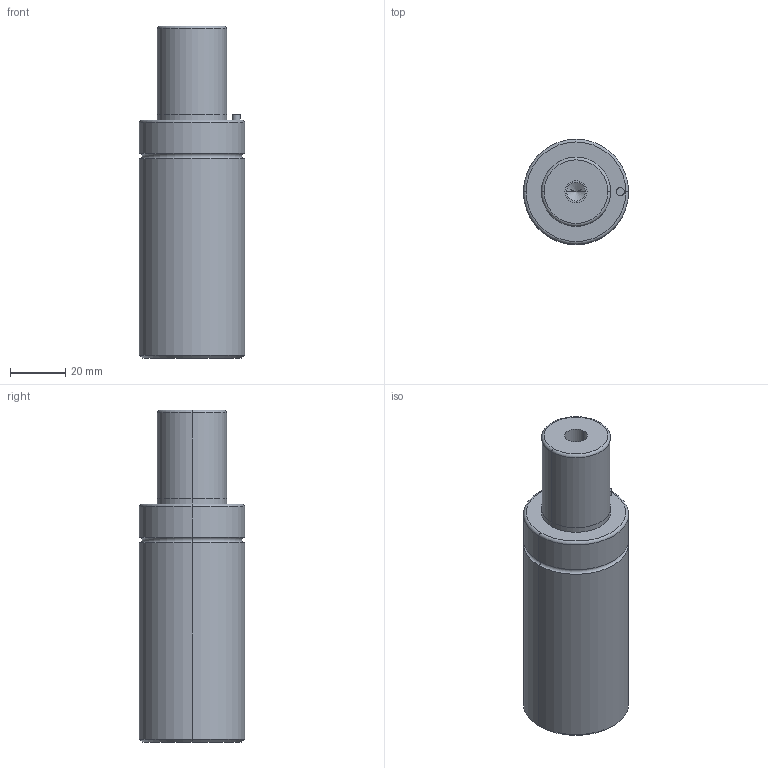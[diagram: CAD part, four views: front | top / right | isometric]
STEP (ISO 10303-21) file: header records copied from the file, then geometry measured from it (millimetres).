
FILE_DESCRIPTION(/* description */ (''),/* implementation_level */ '2;1');
FILE_NAME(/* name */ '3d_gsm38-32_03918_r00.stp',/* time_stamp */ '2011-01-10T14:15:16+09:00',/* author */ ('MISUMI'),/* organization */ (''),/* preprocessor_version */ 'ST-DEVELOPER v11',/* originating_system */ 'UGS - NX 5.0',/* authorisation */ '');
FILE_SCHEMA (('CONFIG_CONTROL_DESIGN'));
Length unit declared in the file: millimetre
Products named in the file (1): 3d_gsm38-32_03918_r00
Bounding box: 38 x 38 x 120 mm (x, y, z)
Volume: 112168.4 mm3; surface area: 16182.6 mm2
Topology: 1 solids, 1 shells, 50 faces, 106 edges, 60 vertices
Faces by surface type: cylinder 26, cone 10, plane 8, torus 6
Entity records: 1382 total; most frequent: DIRECTION 262, CARTESIAN_POINT 209, ORIENTED_EDGE 196, AXIS2_PLACEMENT_3D 113, EDGE_CURVE 98, CIRCLE 62, EDGE_LOOP 60, VERTEX_POINT 60
